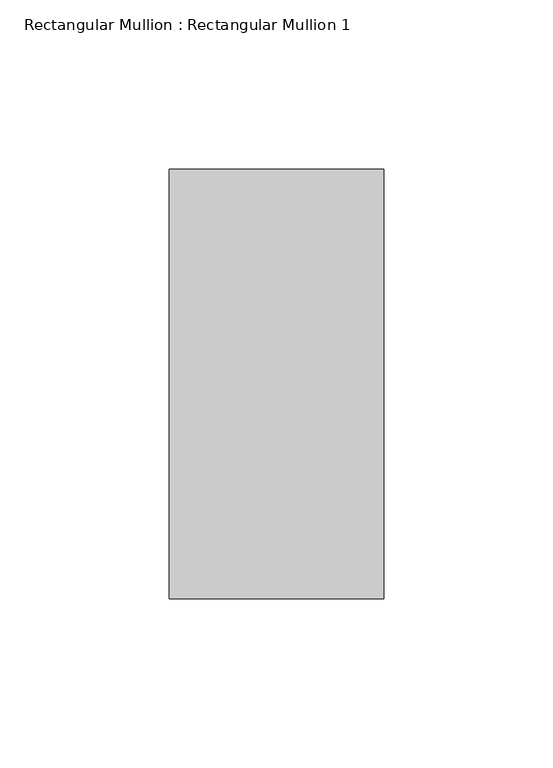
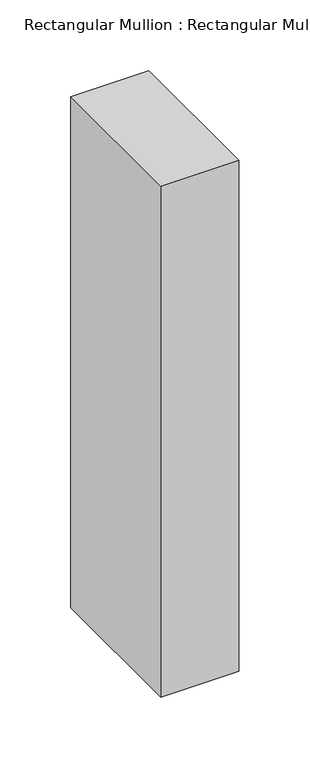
"""IFC4 building model written with IfcOpenShell, lengths in millimetres: member geometry, Rectangular Mullion : Rectangular Mullion 1."""

from ifc_helpers import new_model, si_unit, frame, origin, place, context, project, spatial, polyline, outline, extrude, source, transform, mapped, element, save


def rectangular_mullion_rectangular_mullion_1_04191cc5(model_context):
    return source(origin(), model_context, "Body", "SweptSolid", [
        extrude(outline(polyline([(0.0, 63.5), (0.0, -63.5), (-63.5, -63.5), (-63.5, 63.5), (0.0, 63.5)])), frame((0.0, 0.0, -439.9409051), z_axis=(0.0, 0.0, 1.0), x_axis=(1.0, 0.0, 0.0)), (0.0, 0.0, 1.0), 439.9409051),
    ])


if __name__ == "__main__":
    model = new_model("IFC4")
    model_context = context("Model", 3, world=origin())
    ifc_project = project(units=[si_unit("LENGTHUNIT", "METRE", prefix="MILLI")], contexts=[model_context])
    site = spatial("IfcSite", under=ifc_project)
    building = spatial("IfcBuilding", under=site)
    placement = place(None, origin())
    rectangular_mullion_rectangular_mullion_1_shape = rectangular_mullion_rectangular_mullion_1_04191cc5(model_context)
    element("IfcMember", 1, ObjectType="Rectangular Mullion : Rectangular Mullion 1", at=placement, inside=building, context=model_context, shape_type="MappedRepresentation", body=[
        mapped(rectangular_mullion_rectangular_mullion_1_shape, transform((0.0, 0.0, 0.0), x_axis=(1.0, 0.0, 0.0), y_axis=(0.0, 1.0, 0.0), z_axis=(0.0, 0.0, 1.0))),
    ])
    save(model, "model.ifc")
